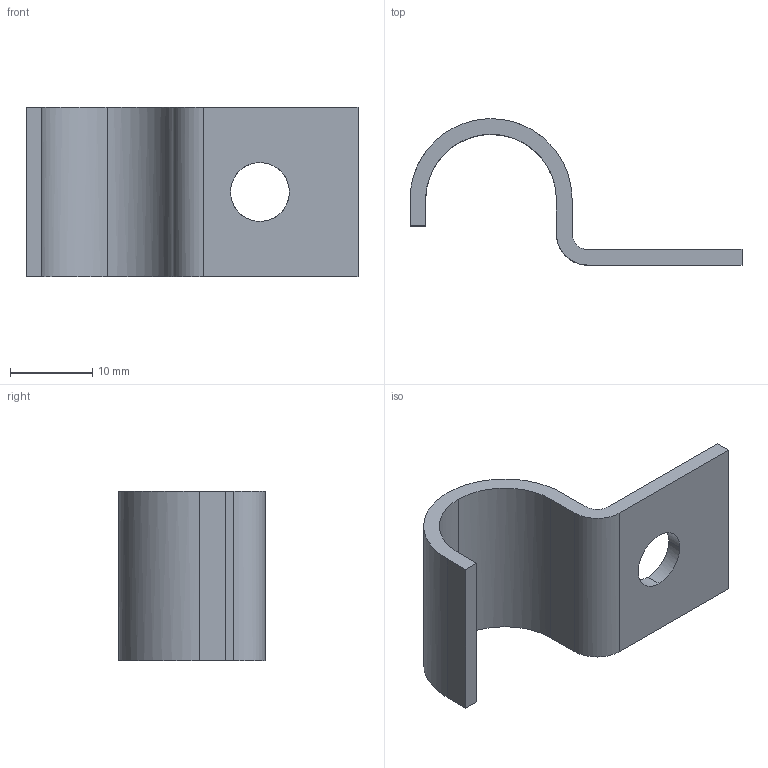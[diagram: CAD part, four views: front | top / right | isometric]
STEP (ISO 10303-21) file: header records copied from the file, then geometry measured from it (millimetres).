
FILE_DESCRIPTION(('TurboCAD Mac Pro'),'Build 980');
FILE_NAME('P2014.stp',' ',(''),(''),'ACIS Interop','IMSI','TurboCAD Mac Pro BY IMSI, INCORPORATED');
FILE_SCHEMA(('automotive_design'));
Length unit declared in the file: inch
Products named in the file (1): 1
Bounding box: 40.35 x 17.79 x 20.64 mm (x, y, z)
Volume: 2224.8 mm3; surface area: 2678.7 mm2
Topology: 1 solids, 1 shells, 20 faces, 54 edges, 36 vertices
Faces by surface type: bspline 10, plane 10
Entity records: 866 total; most frequent: CARTESIAN_POINT 241, ORIENTED_EDGE 108, DIRECTION 56, EDGE_CURVE 54, VERTEX_POINT 36, LINE 34, VECTOR 34, EDGE_LOOP 22
